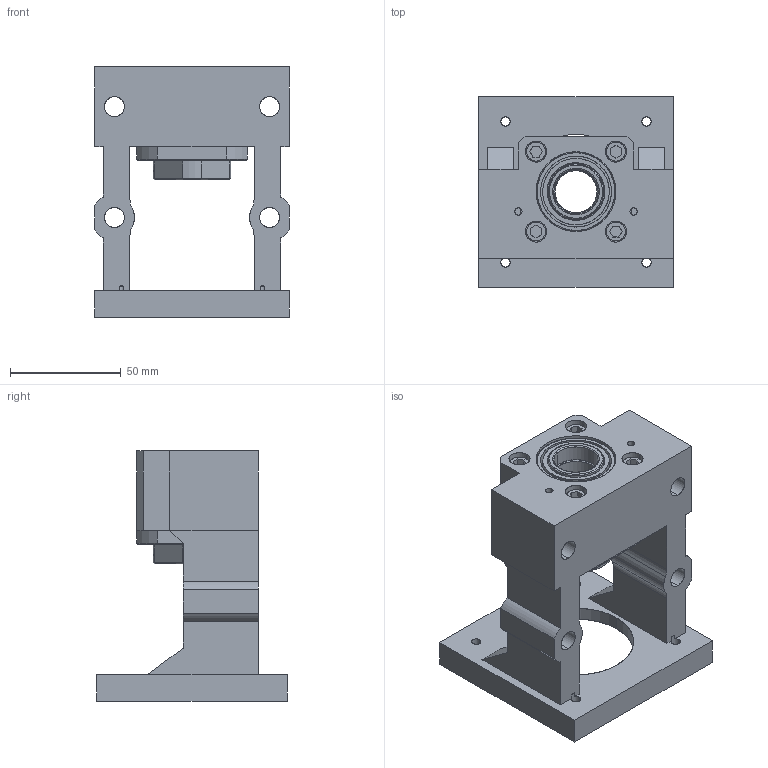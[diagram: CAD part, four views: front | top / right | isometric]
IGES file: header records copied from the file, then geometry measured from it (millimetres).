
Start section: SolidWorks IGES file using analytic representation for surfaces
Global section: file name: H\\Syknas\暫放-每月定期刪除\181\偏心量修訂成位置度\20250915 MBCA20E EP 3D檔\MBCA20-EP組合件.IGS; native system: SolidWorks 2018; preprocessor: SolidWorks 2018; author: 181; date: 250915.110422; units: millimetre
Bounding box: 88 x 86 x 113 mm (x, y, z)
Surface area: 64446.2 mm2 (no closed solid volume)
Topology: 0 solids, 0 shells, 249 faces, 3952 edges, 3952 vertices
Faces by surface type: revolution 130, bspline 119
